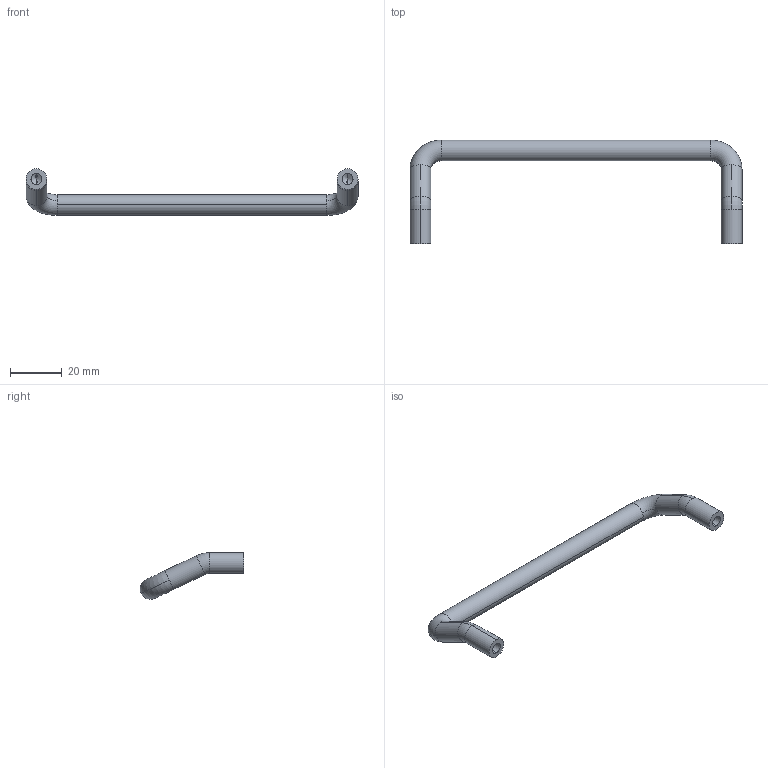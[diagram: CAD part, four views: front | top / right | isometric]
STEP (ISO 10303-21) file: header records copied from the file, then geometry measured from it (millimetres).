
FILE_DESCRIPTION (( 'STEP AP203' ), '1' );
FILE_NAME ('E07-53120.STEP', '2025-01-06T08:06:21', ( '' ), ( '' ), 'SwSTEP 2.0', 'SolidWorks 2021', '' );
FILE_SCHEMA (( 'CONFIG_CONTROL_DESIGN' ));
Length unit declared in the file: millimetre
Products named in the file (1): E07-53120
Bounding box: 128 x 40 x 17.99 mm (x, y, z)
Volume: 9238.2 mm3; surface area: 5132.5 mm2
Topology: 1 solids, 1 shells, 28 faces, 68 edges, 40 vertices
Faces by surface type: cylinder 14, torus 8, cone 4, plane 2
Entity records: 887 total; most frequent: DIRECTION 168, CARTESIAN_POINT 133, ORIENTED_EDGE 128, AXIS2_PLACEMENT_3D 75, EDGE_CURVE 64, CIRCLE 46, VERTEX_POINT 40, EDGE_LOOP 30
